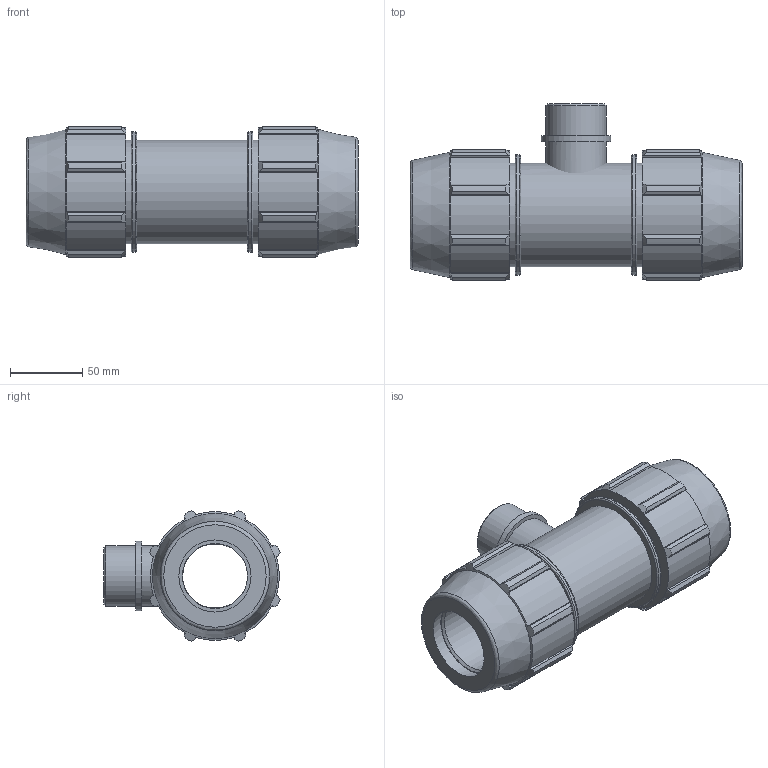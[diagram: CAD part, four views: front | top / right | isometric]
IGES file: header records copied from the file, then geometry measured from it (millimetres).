
Global section: file name: 078400050013_188400050013_0784060500130A.ipt; native system: Autodesk Inventor 2015; preprocessor: unknown; author: Кирилл,,11,0; organization: 20170224.180708; date: 20170606.172433; units: millimetre
Bounding box: 230 x 122.16 x 90.33 mm (x, y, z)
Volume: 796838.9 mm3; surface area: 129416.9 mm2
Topology: 2 solids, 2 shells, 156 faces, 438 edges, 297 vertices
Faces by surface type: plane 79, cylinder 40, cone 21, revolution 16
Full cylindrical faces by diameter (mm): 41.91 x2, 48.197 x1, 72 x3, 83.52 x2
